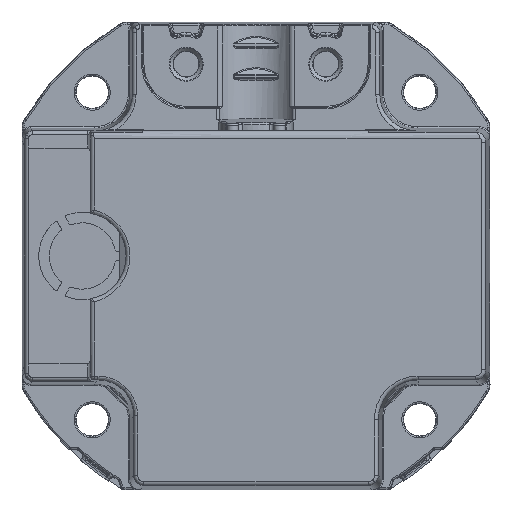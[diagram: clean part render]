
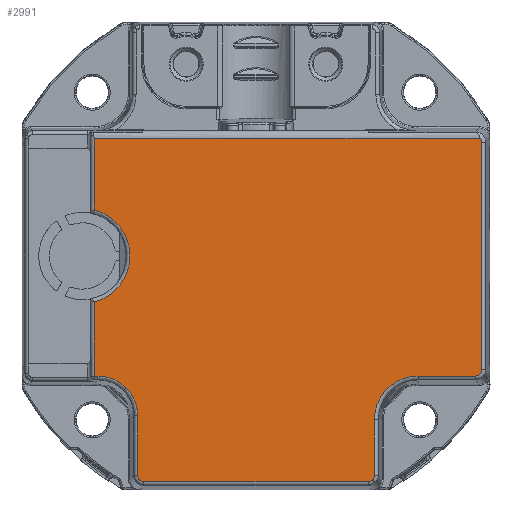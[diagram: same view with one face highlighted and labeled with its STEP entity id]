
A CAD part, front view. The second image highlights one B-rep face of the part: STEP entity #2991.
In plain terms, the highlighted planar face has unit normal (0, -1, 0).
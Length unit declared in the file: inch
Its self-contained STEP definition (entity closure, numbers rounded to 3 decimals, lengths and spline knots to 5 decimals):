
#2314=CARTESIAN_POINT('',(-0.8153,-1.31102,0.59436));
#2315=VERTEX_POINT('',#2314);
#2332=CARTESIAN_POINT('',(1.13205,-1.31102,0.59436));
#2333=VERTEX_POINT('',#2332);
#2334=CARTESIAN_POINT('',(-0.8153,-1.31102,0.59436));
#2335=DIRECTION('',(1.0,0.0,0.0));
#2336=VECTOR('',#2335,1.94735);
#2337=LINE('',#2334,#2336);
#2338=EDGE_CURVE('',#2315,#2333,#2337,.T.);
#2820=CARTESIAN_POINT('',(0.,-1.31102,0.));
#2821=DIRECTION('',(0.0,-1.0,0.0));
#2822=DIRECTION('',(0.0,0.0,-1.0));
#2823=AXIS2_PLACEMENT_3D('',#2820,#2821,#2822);
#2824=PLANE('',#2823);
#2825=ORIENTED_EDGE('',*,*,#2338,.F.);
#2826=CARTESIAN_POINT('',(-0.8153,-1.31102,0.23201));
#2827=VERTEX_POINT('',#2826);
#2828=CARTESIAN_POINT('',(-0.8153,-1.31102,0.59436));
#2829=DIRECTION('',(0.0,0.0,-1.0));
#2830=VECTOR('',#2829,0.36235);
#2831=LINE('',#2828,#2830);
#2832=EDGE_CURVE('',#2315,#2827,#2831,.T.);
#2833=ORIENTED_EDGE('',*,*,#2832,.T.);
#2834=CARTESIAN_POINT('',(-0.8153,-1.31102,-0.23201));
#2835=VERTEX_POINT('',#2834);
#2836=CARTESIAN_POINT('',(-0.87598,-1.31102,0.));
#2837=DIRECTION('',(0.0,1.0,0.0));
#2838=DIRECTION('',(0.0,0.0,1.0));
#2839=AXIS2_PLACEMENT_3D('',#2836,#2837,#2838);
#2840=CIRCLE('',#2839,0.23982);
#2841=EDGE_CURVE('',#2827,#2835,#2840,.T.);
#2842=ORIENTED_EDGE('',*,*,#2841,.T.);
#2843=CARTESIAN_POINT('',(-0.8153,-1.31102,-0.60585));
#2844=VERTEX_POINT('',#2843);
#2845=CARTESIAN_POINT('',(-0.8153,-1.31102,-0.23201));
#2846=DIRECTION('',(0.0,0.0,-1.0));
#2847=VECTOR('',#2846,0.37383);
#2848=LINE('',#2845,#2847);
#2849=EDGE_CURVE('',#2835,#2844,#2848,.T.);
#2850=ORIENTED_EDGE('',*,*,#2849,.T.);
#2851=CARTESIAN_POINT('',(-0.79814,-1.31102,-0.60585));
#2852=VERTEX_POINT('',#2851);
#2853=CARTESIAN_POINT('',(-0.8153,-1.31102,-0.60585));
#2854=DIRECTION('',(1.0,0.0,0.0));
#2855=VECTOR('',#2854,0.01716);
#2856=LINE('',#2853,#2855);
#2857=EDGE_CURVE('',#2844,#2852,#2856,.T.);
#2858=ORIENTED_EDGE('',*,*,#2857,.T.);
#2859=CARTESIAN_POINT('',(-0.65618,-1.31102,-0.66464));
#2860=VERTEX_POINT('',#2859);
#2861=CARTESIAN_POINT('',(-0.79814,-1.31102,-0.60585));
#2862=CARTESIAN_POINT('',(-0.77185,-1.31102,-0.60585));
#2863=CARTESIAN_POINT('',(-0.74559,-1.31102,-0.61107));
#2864=CARTESIAN_POINT('',(-0.72131,-1.31102,-0.62113));
#2865=CARTESIAN_POINT('',(-0.69703,-1.31102,-0.63118));
#2866=CARTESIAN_POINT('',(-0.67476,-1.31102,-0.64606));
#2867=CARTESIAN_POINT('',(-0.65618,-1.31102,-0.66464));
#2868=B_SPLINE_CURVE_WITH_KNOTS('',3,(#2861,#2862,#2863,#2864,#2865,#2866,#2867),.UNSPECIFIED.,.F.,.U.,(4,3,4),(5.49794,5.89056,6.28319),.UNSPECIFIED.);
#2869=EDGE_CURVE('',#2852,#2860,#2868,.T.);
#2870=ORIENTED_EDGE('',*,*,#2869,.T.);
#2871=CARTESIAN_POINT('',(-0.59738,-1.31102,-0.8066));
#2872=VERTEX_POINT('',#2871);
#2873=CARTESIAN_POINT('',(-0.65618,-1.31102,-0.66464));
#2874=CARTESIAN_POINT('',(-0.63759,-1.31102,-0.68323));
#2875=CARTESIAN_POINT('',(-0.62272,-1.31102,-0.70549));
#2876=CARTESIAN_POINT('',(-0.61266,-1.31102,-0.72977));
#2877=CARTESIAN_POINT('',(-0.60261,-1.31102,-0.75405));
#2878=CARTESIAN_POINT('',(-0.59738,-1.31102,-0.78032));
#2879=CARTESIAN_POINT('',(-0.59738,-1.31102,-0.8066));
#2880=B_SPLINE_CURVE_WITH_KNOTS('',3,(#2873,#2874,#2875,#2876,#2877,#2878,#2879),.UNSPECIFIED.,.F.,.U.,(4,3,4),(0.,0.39262,0.78525),.UNSPECIFIED.);
#2881=EDGE_CURVE('',#2860,#2872,#2880,.T.);
#2882=ORIENTED_EDGE('',*,*,#2881,.T.);
#2883=CARTESIAN_POINT('',(-0.59738,-1.31102,-1.10773));
#2884=VERTEX_POINT('',#2883);
#2885=CARTESIAN_POINT('',(-0.59738,-1.31102,-0.8066));
#2886=DIRECTION('',(0.0,0.0,-1.0));
#2887=VECTOR('',#2886,0.30112);
#2888=LINE('',#2885,#2887);
#2889=EDGE_CURVE('',#2872,#2884,#2888,.T.);
#2890=ORIENTED_EDGE('',*,*,#2889,.T.);
#2891=CARTESIAN_POINT('',(-0.56589,-1.31102,-1.13922));
#2892=VERTEX_POINT('',#2891);
#2893=CARTESIAN_POINT('',(-0.59738,-1.31102,-1.10773));
#2894=CARTESIAN_POINT('',(-0.59738,-1.31102,-1.11185));
#2895=CARTESIAN_POINT('',(-0.59656,-1.31102,-1.11597));
#2896=CARTESIAN_POINT('',(-0.59341,-1.31102,-1.12359));
#2897=CARTESIAN_POINT('',(-0.59107,-1.31102,-1.12708));
#2898=CARTESIAN_POINT('',(-0.58524,-1.31102,-1.13291));
#2899=CARTESIAN_POINT('',(-0.58175,-1.31102,-1.13524));
#2900=CARTESIAN_POINT('',(-0.57413,-1.31102,-1.1384));
#2901=CARTESIAN_POINT('',(-0.57001,-1.31102,-1.13922));
#2902=CARTESIAN_POINT('',(-0.56589,-1.31102,-1.13922));
#2903=B_SPLINE_CURVE_WITH_KNOTS('',3,(#2893,#2894,#2895,#2896,#2897,#2898,#2899,#2900,#2901,#2902),.UNSPECIFIED.,.F.,.U.,(4,2,2,2,4),(2.35635,2.74897,3.14159,3.53422,3.92684),.UNSPECIFIED.);
#2904=EDGE_CURVE('',#2884,#2892,#2903,.T.);
#2905=ORIENTED_EDGE('',*,*,#2904,.T.);
#2906=CARTESIAN_POINT('',(0.56589,-1.31102,-1.13922));
#2907=VERTEX_POINT('',#2906);
#2908=CARTESIAN_POINT('',(-0.56589,-1.31102,-1.13922));
#2909=DIRECTION('',(1.0,0.0,0.0));
#2910=VECTOR('',#2909,1.13178);
#2911=LINE('',#2908,#2910);
#2912=EDGE_CURVE('',#2892,#2907,#2911,.T.);
#2913=ORIENTED_EDGE('',*,*,#2912,.T.);
#2914=CARTESIAN_POINT('',(0.58816,-1.31102,-1.12999));
#2915=VERTEX_POINT('',#2914);
#2916=CARTESIAN_POINT('',(0.56771,-1.31102,-1.11213));
#2917=DIRECTION('',(0.0,-1.0,0.0));
#2918=DIRECTION('',(0.924,0.0,0.382));
#2919=AXIS2_PLACEMENT_3D('',#2916,#2917,#2918);
#2920=ELLIPSE('',#2919,0.0292,0.02671);
#2921=EDGE_CURVE('',#2907,#2915,#2920,.T.);
#2922=ORIENTED_EDGE('',*,*,#2921,.T.);
#2923=CARTESIAN_POINT('',(0.59738,-1.31102,-1.10773));
#2924=VERTEX_POINT('',#2923);
#2925=CARTESIAN_POINT('',(0.5703,-1.31102,-1.10955));
#2926=DIRECTION('',(0.0,-1.0,0.0));
#2927=DIRECTION('',(-0.382,0.0,-0.924));
#2928=AXIS2_PLACEMENT_3D('',#2925,#2926,#2927);
#2929=ELLIPSE('',#2928,0.0292,0.02671);
#2930=EDGE_CURVE('',#2915,#2924,#2929,.T.);
#2931=ORIENTED_EDGE('',*,*,#2930,.T.);
#2932=CARTESIAN_POINT('',(0.59738,-1.31102,-0.82677));
#2933=VERTEX_POINT('',#2932);
#2934=CARTESIAN_POINT('',(0.59738,-1.31102,-1.10773));
#2935=DIRECTION('',(0.0,0.0,1.0));
#2936=VECTOR('',#2935,0.28095);
#2937=LINE('',#2934,#2936);
#2938=EDGE_CURVE('',#2924,#2933,#2937,.T.);
#2939=ORIENTED_EDGE('',*,*,#2938,.T.);
#2940=CARTESIAN_POINT('',(0.81831,-1.31102,-0.60585));
#2941=VERTEX_POINT('',#2940);
#2942=CARTESIAN_POINT('',(0.81831,-1.31102,-0.82677));
#2943=DIRECTION('',(0.0,1.0,0.0));
#2944=DIRECTION('',(0.0,0.0,1.0));
#2945=AXIS2_PLACEMENT_3D('',#2942,#2943,#2944);
#2946=CIRCLE('',#2945,0.22093);
#2947=EDGE_CURVE('',#2933,#2941,#2946,.T.);
#2948=ORIENTED_EDGE('',*,*,#2947,.T.);
#2949=CARTESIAN_POINT('',(1.10773,-1.31102,-0.60585));
#2950=VERTEX_POINT('',#2949);
#2951=CARTESIAN_POINT('',(0.81831,-1.31102,-0.60585));
#2952=DIRECTION('',(1.0,0.0,0.0));
#2953=VECTOR('',#2952,0.28942);
#2954=LINE('',#2951,#2953);
#2955=EDGE_CURVE('',#2941,#2950,#2954,.T.);
#2956=ORIENTED_EDGE('',*,*,#2955,.T.);
#2957=CARTESIAN_POINT('',(1.13922,-1.31102,-0.57435));
#2958=VERTEX_POINT('',#2957);
#2959=CARTESIAN_POINT('',(1.10773,-1.31102,-0.60585));
#2960=CARTESIAN_POINT('',(1.11185,-1.31102,-0.60585));
#2961=CARTESIAN_POINT('',(1.11597,-1.31102,-0.60503));
#2962=CARTESIAN_POINT('',(1.12359,-1.31102,-0.60187));
#2963=CARTESIAN_POINT('',(1.12708,-1.31102,-0.59954));
#2964=CARTESIAN_POINT('',(1.13291,-1.31102,-0.59371));
#2965=CARTESIAN_POINT('',(1.13524,-1.31102,-0.59022));
#2966=CARTESIAN_POINT('',(1.1384,-1.31102,-0.5826));
#2967=CARTESIAN_POINT('',(1.13922,-1.31102,-0.57848));
#2968=CARTESIAN_POINT('',(1.13922,-1.31102,-0.57435));
#2969=B_SPLINE_CURVE_WITH_KNOTS('',3,(#2959,#2960,#2961,#2962,#2963,#2964,#2965,#2966,#2967,#2968),.UNSPECIFIED.,.F.,.U.,(4,2,2,2,4),(2.35635,2.74897,3.14159,3.53422,3.92684),.UNSPECIFIED.);
#2970=EDGE_CURVE('',#2950,#2958,#2969,.T.);
#2971=ORIENTED_EDGE('',*,*,#2970,.T.);
#2972=CARTESIAN_POINT('',(1.13922,-1.31102,0.57435));
#2973=VERTEX_POINT('',#2972);
#2974=CARTESIAN_POINT('',(1.13922,-1.31102,-0.57435));
#2975=DIRECTION('',(0.0,0.0,1.0));
#2976=VECTOR('',#2975,1.14871);
#2977=LINE('',#2974,#2976);
#2978=EDGE_CURVE('',#2958,#2973,#2977,.T.);
#2979=ORIENTED_EDGE('',*,*,#2978,.T.);
#2980=CARTESIAN_POINT('',(1.13922,-1.31102,0.57435));
#2981=CARTESIAN_POINT('',(1.13922,-1.31102,0.57848));
#2982=CARTESIAN_POINT('',(1.1384,-1.31102,0.5826));
#2983=CARTESIAN_POINT('',(1.13563,-1.31102,0.58927));
#2984=CARTESIAN_POINT('',(1.13402,-1.31102,0.59196));
#2985=CARTESIAN_POINT('',(1.13205,-1.31102,0.59436));
#2986=B_SPLINE_CURVE_WITH_KNOTS('',3,(#2980,#2981,#2982,#2983,#2984,#2985),.UNSPECIFIED.,.F.,.U.,(4,2,4),(2.35635,2.74897,3.04452),.UNSPECIFIED.);
#2987=EDGE_CURVE('',#2973,#2333,#2986,.T.);
#2988=ORIENTED_EDGE('',*,*,#2987,.T.);
#2989=EDGE_LOOP('',(#2825,#2833,#2842,#2850,#2858,#2870,#2882,#2890,#2905,#2913,#2922,#2931,#2939,#2948,#2956,#2971,#2979,#2988));
#2990=FACE_OUTER_BOUND('',#2989,.T.);
#2991=ADVANCED_FACE('',(#2990),#2824,.T.);
